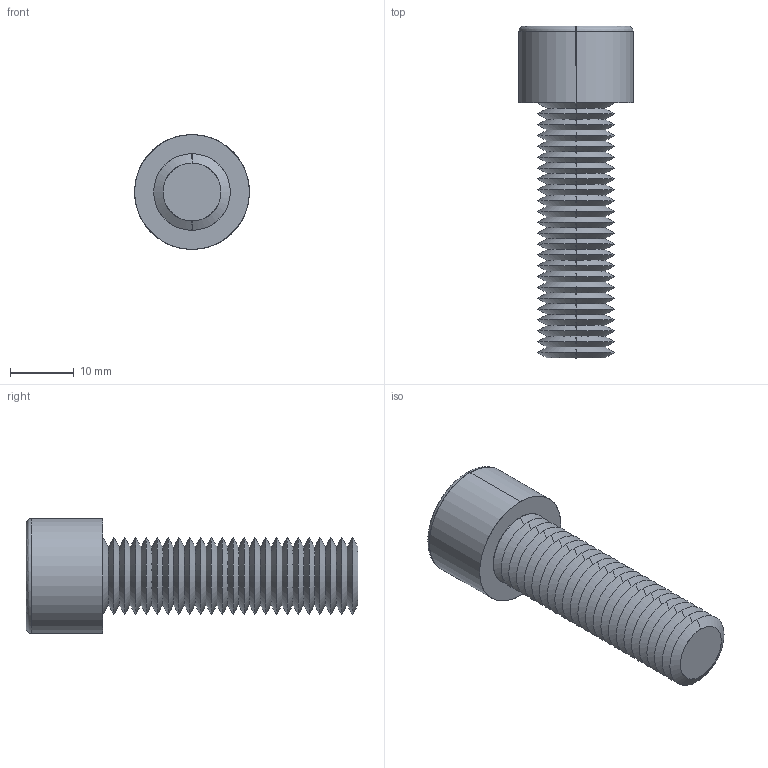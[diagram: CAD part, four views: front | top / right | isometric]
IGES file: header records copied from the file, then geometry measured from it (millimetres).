
Start section: SolidWorks IGES file using analytic representation for surfaces
Global section: file name: C:\Users\ianosborn\Desktop\N0007.91N_v2\N0007.91N_v2_20250519_IGES\91N.120.0400.igs; native system: SolidWorks 2019; preprocessor: SolidWorks 2019; author: IanOsborn; date: 250520.095611; units: millimetre
Bounding box: 18 x 52 x 18 mm (x, y, z)
Surface area: 4116.9 mm2 (no closed solid volume)
Topology: 0 solids, 0 shells, 124 faces, 741 edges, 739 vertices
Faces by surface type: revolution 107, bspline 17
